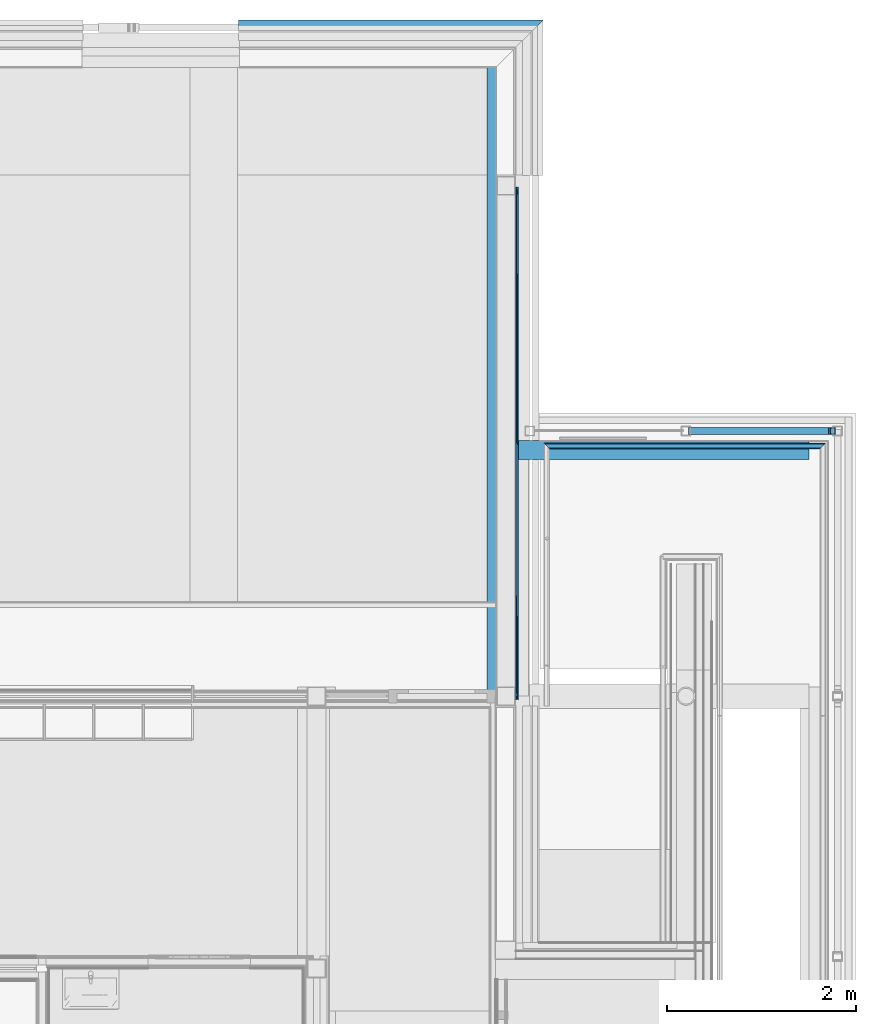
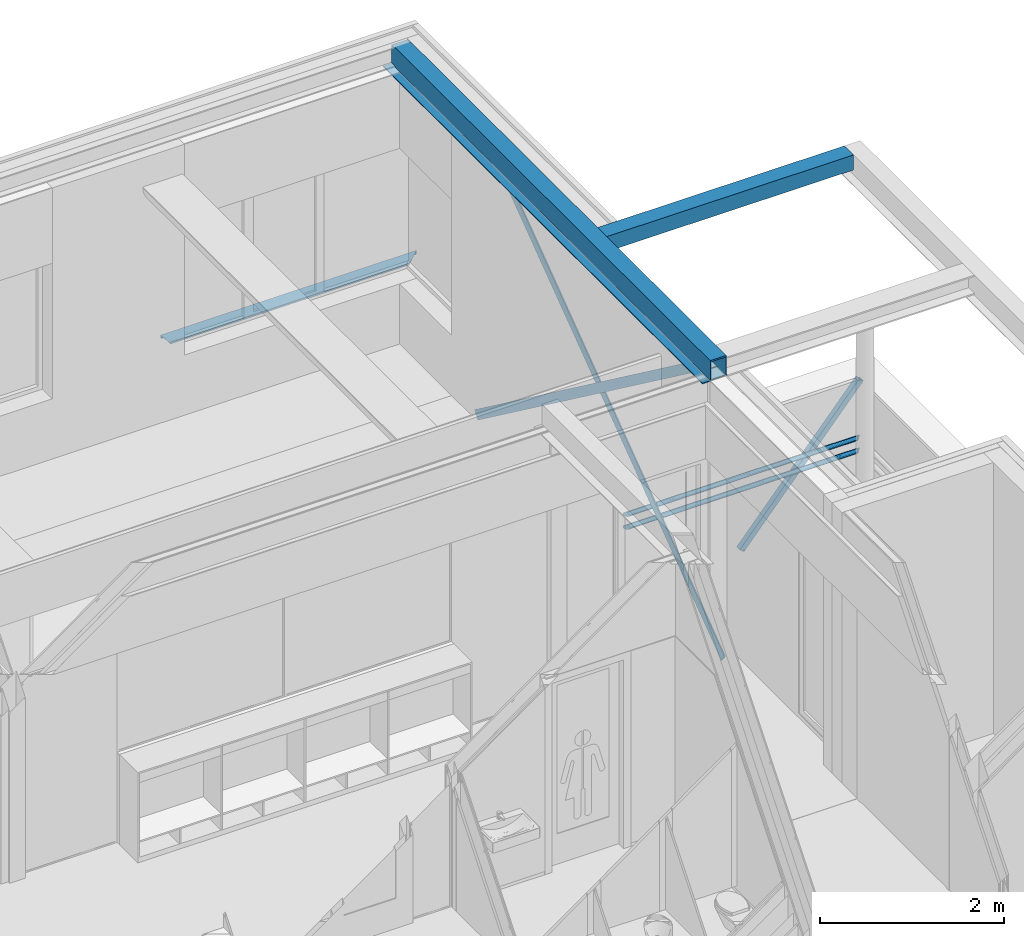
# One storey, part 27 of 137: 6 beams, 2 members, 1 element without a shape of its own.
"""IFC2X3 building model written with IfcOpenShell, lengths in millimetres."""

from ifc_helpers import new_model, entity, si_unit, converted_unit, derived_unit, money_unit, direction, frame, origin_with_axes, place, context, subcontext, project, spatial, faceted_brep, material, type_object, element, aggregate, save


model = new_model("IFC2X3")

# Units and contexts
model_context = context("Model", 3, precision=0.01, world=origin_with_axes(), true_north=direction((0.0, 1.0)))
body_context = subcontext(model_context, "Body", "Model", "MODEL_VIEW")
ifc_project = project(units=[si_unit("LENGTHUNIT", "METRE", prefix="MILLI"), si_unit("AREAUNIT", "SQUARE_METRE"), si_unit("VOLUMEUNIT", "CUBIC_METRE"), converted_unit("PLANEANGLEUNIT", "DEGREE", entity("IfcPlaneAngleMeasure", 0.0174532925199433), si_unit("PLANEANGLEUNIT", "RADIAN"), dimensions=[0, 0, 0, 0, 0, 0, 0]), money_unit("EUR"), converted_unit("TIMEUNIT", "Year", entity("IfcTimeMeasure", 31556926.0), si_unit("TIMEUNIT", "SECOND"), dimensions=[0, 0, 1, 0, 0, 0, 0]), si_unit("MASSUNIT", "GRAM", prefix="KILO"), si_unit("THERMODYNAMICTEMPERATUREUNIT", "DEGREE_CELSIUS"), si_unit("LUMINOUSINTENSITYUNIT", "LUMEN"), si_unit("ENERGYUNIT", "JOULE", prefix="MEGA"), derived_unit("THERMALCONDUCTANCEUNIT", [(si_unit("POWERUNIT", "WATT"), 1), (si_unit("LENGTHUNIT", "METRE"), -1), (si_unit("THERMODYNAMICTEMPERATUREUNIT", "KELVIN"), -1)]), derived_unit("SPECIFICHEATCAPACITYUNIT", [(si_unit("ENERGYUNIT", "JOULE"), 1), (si_unit("MASSUNIT", "GRAM", prefix="KILO"), -1), (si_unit("THERMODYNAMICTEMPERATUREUNIT", "KELVIN"), -1)]), derived_unit("MASSDENSITYUNIT", [(si_unit("MASSUNIT", "GRAM", prefix="KILO"), 1), (si_unit("VOLUMEUNIT", "CUBIC_METRE"), -1)])], contexts=[model_context])

# Site, building, storey
site_placement = place(None, origin_with_axes())
site = spatial("IfcSite", under=ifc_project, at=site_placement, Name="Site", CompositionType="ELEMENT")
building_placement = place(site_placement, origin_with_axes())
building = spatial("IfcBuilding", under=site, at=building_placement, Name="Naam gebouw", CompositionType="ELEMENT")
storey_placement = place(building_placement, frame((0.0, 0.0, 3960.0), z_axis=(0.0, 0.0, 1.0), x_axis=(1.0, 0.0, 0.0)))
storey = spatial("IfcBuildingStorey", under=building, at=storey_placement, Name="1e verdieping", CompositionType="ELEMENT", Elevation=3960.0)

# Beams
ifc_material_1 = material(Name="Metaal - Staal C")
beam_type_1 = type_object("IfcBeamType", Name="28 THQ enkele flens 01 315 x 277", PredefinedType="BEAM")
beam_1_placement = place(storey_placement, frame((26500.0, 22224.99984707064, 3860.0), z_axis=(0.0, 0.0, 1.0), x_axis=(1.0, 0.0, 0.0)))
element("IfcBeam", 1, at=beam_1_placement, inside=storey, type_object=beam_type_1, material=ifc_material_1, Name="h METAAL_Regenwaterafvoer-x", ObjectType="BEAM", context=body_context, shape_type="Brep", body=[
    faceted_brep([(89.99999999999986, 10.00000000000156, -277.0000000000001), (-89.99999999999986, 10.00000000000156, -277.0000000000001), (-89.99999999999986, 190.0000000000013, -277.0000000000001), (89.99999999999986, 190.0000000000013, -277.0000000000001), (89.99999999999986, 10.00000000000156, -264.9999999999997), (-89.99999999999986, 10.00000000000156, -264.9999999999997), (-89.99999999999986, 190.0000000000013, -264.9999999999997), (89.99999999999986, 190.0000000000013, -264.9999999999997)], [[[0, 1, 2, 3]], [[0, 4, 5, 1]], [[1, 5, 6, 2]], [[2, 6, 7, 3]], [[3, 7, 4, 0]], [[6, 5, 4, 7]]]),
    faceted_brep([(90.00000195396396, 5400.000152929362, -277.0000000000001), (-89.99999804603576, 5400.000152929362, -277.0000000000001), (-89.99999804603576, 5580.000152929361, -277.0000000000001), (90.00000195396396, 5580.000152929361, -277.0000000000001), (90.00000195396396, 5400.000152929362, -264.9999999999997), (-89.99999804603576, 5400.000152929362, -264.9999999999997), (-89.99999804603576, 5580.000152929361, -264.9999999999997), (90.00000195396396, 5580.000152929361, -264.9999999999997)], [[[0, 1, 2, 3]], [[0, 4, 5, 1]], [[1, 5, 6, 2]], [[2, 6, 7, 3]], [[3, 7, 4, 0]], [[6, 5, 4, 7]]]),
    faceted_brep([(94.99999999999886, 5590.000152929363, -260.0000000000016), (94.99999999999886, 5390.00015292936, -260.0000000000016), (94.99999999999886, 5390.00015292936, -264.9999999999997), (94.99999999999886, 200.0000000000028, -264.9999999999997), (94.99999999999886, 200.0000000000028, -260.0000000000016), (94.99999999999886, 0.0, -260.0000000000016), (94.99999999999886, 0.0, -20.00000000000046), (94.99999999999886, 6940.000152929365, -20.00000000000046), (94.99999999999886, 6940.000152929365, -246.0000000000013), (94.99999999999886, 6860.000152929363, -246.0000000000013), (94.99999999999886, 6860.000152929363, -260.0000000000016), (94.99999999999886, 6950.000152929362, -260.0000000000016), (94.99999999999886, 6950.000152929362, -264.9999999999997), (94.99999999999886, 5590.000152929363, -264.9999999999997), (100.0000019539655, 5390.00015292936, -260.0000000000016), (100.0000019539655, 5590.000152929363, -260.0000000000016), (100.0000019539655, 5390.00015292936, -277.0000000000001), (-99.99999804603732, 5390.00015292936, -277.0000000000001), (-99.99999804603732, 5390.00015292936, -260.0000000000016), (-94.99999999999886, 5390.00015292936, -260.0000000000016), (-94.99999999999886, 5390.00015292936, -264.9999999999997), (-94.99999999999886, 200.0000000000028, -264.9999999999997), (-100.0000000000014, 200.0000000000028, -277.0000000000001), (100.0000000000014, 200.0000000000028, -277.0000000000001), (100.0000000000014, 200.0000000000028, -260.0000000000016), (-94.99999999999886, 200.0000000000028, -260.0000000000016), (-100.0000000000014, 200.0000000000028, -260.0000000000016), (100.0000000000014, 174.5742838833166, -260.0000000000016), (100.0000000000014, 0.0, -260.0000000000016), (100.0000000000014, 0.0, -277.0000000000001), (115.9999999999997, 0.0, -277.0000000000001), (115.9999999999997, 0.0, -264.9999999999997), (100.9999999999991, 0.0, -264.9999999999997), (100.9999999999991, 0.0, 0.0), (-100.9999999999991, 0.0, 0.0), (-100.9999999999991, 0.0, -264.9999999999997), (-199.0000044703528, 0.0, -264.9999999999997), (-199.0000044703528, 0.0, -277.0000000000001), (-100.0000000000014, 0.0, -277.0000000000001), (-100.0000000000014, 0.0, -260.0000000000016), (-94.99999999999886, 0.0, -260.0000000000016), (-94.99999999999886, 0.0, -19.99999999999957), (-94.99999999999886, 6940.000152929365, -19.99999999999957), (100.000000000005, 6940.000152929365, -14.00000000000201), (100.000000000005, 6940.000152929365, -246.0000000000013), (-94.99999999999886, 6940.000152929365, -246.0000000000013), (-100.9999999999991, 6940.000152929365, -246.0000000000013), (-100.9999999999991, 6940.000152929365, -14.00000000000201), (100.000000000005, 6860.000152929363, -246.0000000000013), (100.000000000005, 6860.000152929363, -260.0000000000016), (100.000000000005, 6950.000152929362, -260.0000000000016), (-94.99999999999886, 6950.000152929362, -264.9999999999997), (100.000000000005, 6950.000152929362, 0.0), (100.9999999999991, 6950.000152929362, 0.0), (100.9999999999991, 6950.000152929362, -264.9999999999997), (115.9999999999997, 6950.000152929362, -264.9999999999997), (115.9999999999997, 6950.000152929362, -277.0000000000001), (-199.0000044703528, 6950.000152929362, -277.0000000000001), (-199.0000044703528, 6950.000152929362, -264.9999999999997), (-100.9999999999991, 6950.000152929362, -264.9999999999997), (-101.0000000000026, 6950.000152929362, -260.0000000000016), (-94.99999999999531, 6950.000152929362, -260.0000000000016), (-94.99999999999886, 5590.000152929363, -264.9999999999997), (-99.99999804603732, 5590.000152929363, -260.0000000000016), (-99.99999804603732, 5590.000152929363, -277.0000000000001), (100.0000019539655, 5590.000152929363, -277.0000000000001), (-94.99999999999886, 5590.000152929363, -260.0000000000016), (100.0000000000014, 197.4985269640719, -277.0000000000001), (115.000000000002, 197.4985269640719, -277.0000000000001), (115.000000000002, 398.9560298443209, -277.0000000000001), (100.0000000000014, 398.9560298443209, -277.0000000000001), (115.9999999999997, 5342.50162596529, -277.0000000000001), (115.000000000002, 5342.50162596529, -277.0000000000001), (115.000000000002, 5141.044123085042, -277.0000000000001), (115.9999999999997, 5141.044123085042, -277.0000000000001), (-94.99999999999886, 6860.000152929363, -260.0000000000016), (-94.99999999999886, 6860.000152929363, -246.0000000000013), (100.0000000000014, 135.7395475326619, -81.8057602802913), (100.0000000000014, 64.26045246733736, -178.1942397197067), (115.9999999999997, 5157.225941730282, -264.9999999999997), (115.9999999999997, 5358.68344461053, -264.9999999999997), (100.9999999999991, 382.7742111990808, -264.9999999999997), (115.000000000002, 382.7742111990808, -264.9999999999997), (115.000000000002, 181.3167083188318, -264.9999999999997), (100.9999999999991, 181.3167083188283, -264.9999999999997), (115.000000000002, 5157.225941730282, -264.9999999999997), (115.000000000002, 5358.68344461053, -264.9999999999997), (100.9999999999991, 64.26045246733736, -178.1942397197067), (100.9999999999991, 135.7395475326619, -81.8057602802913), (100.000000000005, 6860.000152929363, 0.0), (-101.0000000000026, 6860.000152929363, 0.0), (-100.9999999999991, 6860.000152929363, -246.0000000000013), (-100.9999999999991, 6860.000152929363, -260.0000000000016), (-100.9999999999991, 6860.000152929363, -14.00000000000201), (100.000000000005, 6860.000152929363, -14.00000000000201)], [[[0, 1, 2, 3, 4, 5, 6, 7, 8, 9, 10, 11, 12, 13]], [[14, 1, 0, 15]], [[14, 16, 17, 18, 19, 20, 2, 1]], [[3, 2, 20, 21]], [[22, 23, 24, 4, 3, 21, 25, 26]], [[4, 24, 27, 28, 5]], [[5, 28, 29, 30, 31, 32, 33, 34, 35, 36, 37, 38, 39, 40, 41, 6]], [[6, 41, 42, 7]], [[43, 44, 8, 7, 42, 45, 46, 47]], [[44, 48, 9, 8]], [[48, 49, 10, 9]], [[10, 49, 50, 11]], [[51, 12, 11, 50, 52, 53, 54, 55, 56, 57, 58, 59, 60, 61]], [[51, 62, 13, 12]], [[63, 64, 65, 15, 0, 13, 62, 66]], [[15, 65, 16, 14]], [[30, 29, 67, 68, 69, 70, 23, 22, 38, 37, 57, 56, 71, 72, 73, 74], [64, 17, 16, 65]], [[18, 17, 64, 63]], [[63, 66, 19, 18]], [[19, 66, 62, 51, 61, 75, 76, 45, 42, 41, 40, 25, 21, 20]], [[27, 24, 23, 70, 77, 78]], [[26, 25, 40, 39]], [[39, 38, 22, 26]], [[28, 27, 67, 29]], [[31, 30, 74, 79]], [[80, 55, 54, 81, 82, 83, 84, 32, 31, 79, 85, 86]], [[53, 33, 32, 84, 87, 88, 81, 54]], [[53, 52, 89, 90, 34, 33]], [[46, 91, 92, 60, 59, 35, 34, 90, 93, 47]], [[59, 58, 36, 35]], [[58, 57, 37, 36]], [[43, 94, 89, 52, 50, 49, 48, 44]], [[91, 46, 45, 76]], [[94, 43, 47, 93]], [[56, 55, 80, 71]], [[60, 92, 75, 61]], [[68, 67, 27, 78, 87, 84, 83]], [[82, 69, 68, 83]], [[69, 82, 81, 88, 77, 70]], [[86, 72, 71, 80]], [[73, 72, 86, 85]], [[74, 73, 85, 79]], [[92, 91, 76, 75]], [[77, 88, 87, 78]], [[94, 93, 90, 89]]]),
])
beam_type_2 = type_object("IfcBeamType", Name="200X200X10 200 x 200", PredefinedType="BEAM")
beam_2_placement = place(storey_placement, frame((29698.99999955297, 24924.97621406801, 3760.0), z_axis=(0.0, 0.0, 1.0), x_axis=(0.0, 1.0, 0.0)))
element("IfcBeam", 2, at=beam_2_placement, inside=storey, type_object=beam_type_2, material=ifc_material_1, Name="h METAAL_Regenwaterafvoer-x", ObjectType="BEAM", context=body_context, shape_type="Brep", body=[
    faceted_brep([(-100.0000000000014, 3097.999999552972, -99.99999999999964), (100.0000000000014, 3097.999999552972, -99.99999999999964), (100.0000000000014, 0.0, -99.99999999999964), (-100.0000000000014, 0.0, -99.99999999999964), (-100.0000000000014, 3097.999999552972, 99.99999999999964), (100.0000000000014, 3097.999999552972, 99.99999999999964), (-89.99999999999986, 3097.999999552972, -89.99999999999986), (89.99999999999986, 3097.999999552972, -89.99999999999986), (89.99999999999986, 3097.999999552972, 89.99999999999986), (-89.99999999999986, 3097.999999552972, 89.99999999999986), (100.0000000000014, 0.0, 99.99999999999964), (-100.0000000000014, 0.0, 99.99999999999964), (-89.99999999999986, 0.0, -89.99999999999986), (-89.99999999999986, 0.0, 89.99999999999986), (89.99999999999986, 0.0, 89.99999999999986), (89.99999999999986, 0.0, -89.99999999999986)], [[[0, 1, 2, 3]], [[0, 4, 5, 1], [6, 7, 8, 9]], [[1, 5, 10, 2]], [[3, 2, 10, 11], [12, 13, 14, 15]], [[4, 0, 3, 11]], [[5, 4, 11, 10]], [[7, 6, 12, 15]], [[8, 7, 15, 14]], [[9, 8, 14, 13]], [[6, 9, 13, 12]]]),
])
beam_type_3 = type_object("IfcBeamType", Name="Metaal - Staal C 15 x 120", PredefinedType="BEAM")
beam_3_placement = place(storey_placement, frame((26630.00000000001, 22324.99984707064, -230.0), z_axis=(0.0, 0.0, 1.0), x_axis=(1.0, 0.0, 0.0)))
element("IfcBeam", 3, at=beam_3_placement, inside=storey, type_object=beam_type_3, material=ifc_material_1, Name="h METAAL_Regenwaterafvoer-x", ObjectType="BEAM", context=body_context, shape_type="Brep", body=[
    faceted_brep([(0.0, -35.73954753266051, 48.19423971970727), (0.0, 5304.260605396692, 4008.194239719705), (-15.00000000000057, 5304.260605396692, 4008.194239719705), (-15.00000000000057, -35.73954753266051, 48.19423971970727), (0.0, 35.73954753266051, -48.19423971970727), (0.0, 5375.739700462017, 3911.805760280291), (-15.00000000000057, 5375.739700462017, 3911.805760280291), (-15.00000000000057, 35.73954753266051, -48.19423971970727)], [[[0, 1, 2, 3]], [[4, 5, 1, 0]], [[2, 1, 5, 6]], [[3, 2, 6, 7]], [[4, 0, 3, 7]], [[7, 6, 5, 4]]]),
])
beam_4_placement = place(storey_placement, frame((26600.0, 27665.0, -230.0), z_axis=(0.0, 0.0, 1.0), x_axis=(-1.0, 0.0, 0.0)))
element("IfcBeam", 4, at=beam_4_placement, inside=storey, type_object=beam_type_3, material=ifc_material_1, Name="h METAAL_Regenwaterafvoer-x", ObjectType="BEAM", context=body_context, shape_type="Brep", body=[
    faceted_brep([(0.0, -35.73954753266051, 48.19423971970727), (0.0, 5304.260605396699, 4008.194239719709), (-15.00000000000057, 5304.260605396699, 4008.194239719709), (-15.00000000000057, -35.73954753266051, 48.19423971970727), (0.0, 35.73954753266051, -48.19423971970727), (0.0, 5375.739700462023, 3911.805760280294), (-15.00000000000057, 5375.739700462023, 3911.805760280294), (-15.00000000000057, 35.73954753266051, -48.19423971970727)], [[[0, 1, 2, 3]], [[4, 5, 1, 0]], [[2, 1, 5, 6]], [[3, 2, 6, 7]], [[4, 0, 3, 7]], [[7, 6, 5, 4]]]),
])
ifc_material_2 = material(Name="Metaal - Aluminium")
beam_type_4 = type_object("IfcBeamType", Name="41 Waterslag 218 x 75", PredefinedType="BEAM")
beam_5_placement = place(storey_placement, frame((23674.99942456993, 29425.0, 750.0), z_axis=(0.0, 0.0, 1.0), x_axis=(0.0, -1.0, 0.0)))
element("IfcBeam", 5, at=beam_5_placement, inside=storey, type_object=beam_type_4, material=ifc_material_2, Name="h4 Aluminium, aluminiumlegeringen_Regenwaterafvoer-x", ObjectType="BEAM", context=body_context, shape_type="Brep", body=[
    faceted_brep([(178.0000000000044, 0.0, 49.99999999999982), (178.0000000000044, 2997.000575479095, 49.99999999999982), (175.0000000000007, 3000.000575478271, 49.99999999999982), (175.0000000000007, 0.0, 49.99999999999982), (177.9999999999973, 0.0, 27.27462510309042), (177.9999999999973, 2997.000575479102, 27.27462510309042), (-36.99999999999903, 3212.000575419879, 12.08231741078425), (-36.99999999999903, 3212.000575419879, -21.99999999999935), (-21.99999999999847, 3197.00057542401, -21.99999999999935), (-21.99999999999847, 3197.00057542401, -24.99999999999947), (-39.99999999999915, 3215.000575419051, -24.99999999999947), (-39.99999999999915, 3215.000575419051, 15.00000000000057), (175.0000000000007, 3000.000575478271, 30.00000000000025), (175.0000000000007, 0.0, 30.00000000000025), (-39.99999999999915, 0.0, 15.00000000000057), (-39.99999999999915, 0.0, -24.99999999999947), (-21.99999999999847, 0.0, -24.99999999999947), (-21.99999999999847, 0.0, -21.99999999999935), (-36.99999999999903, 0.0, -21.99999999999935), (-36.99999999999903, 0.0, 12.08231741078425)], [[[0, 1, 2, 3]], [[4, 5, 1, 0]], [[2, 1, 5, 6, 7, 8, 9, 10, 11, 12]], [[3, 2, 12, 13]], [[4, 0, 3, 13, 14, 15, 16, 17, 18, 19]], [[19, 6, 5, 4]], [[18, 7, 6, 19]], [[17, 8, 7, 18]], [[16, 9, 8, 17]], [[15, 10, 9, 16]], [[14, 11, 10, 15]], [[13, 12, 11, 14]]]),
])

# Railing, members
railing_type = type_object("IfcRailingType", Name="Railing Type", PredefinedType="NOTDEFINED")
railing_placement = place(storey_placement, frame((29909.99996519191, 18712.73639114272, -3419.999937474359), z_axis=(0.0, 0.0, 1.0), x_axis=(1.0, 0.0, 0.0)))
railing = element("IfcRailing", 6, at=railing_placement, inside=storey, type_object=railing_type, Name="34_Reling-x", PredefinedType="NOTDEFINED")
ifc_material_3 = material(Name="Metaal - RVS")
member_type = type_object("IfcMemberType", Name="IfcMember", PredefinedType="USERDEFINED")
member_1_placement = place(railing_placement, frame((-1523.999965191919, 6254.239828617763, 3352.917960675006), z_axis=(0.0, 0.0, 1.0), x_axis=(1.0, 0.0, 0.0)))
member_1 = element("IfcMember", 7, at=member_1_placement, type_object=member_type, material=ifc_material_3, Name="h3 Staal legeringen_", context=body_context, shape_type="Brep", body=[
    faceted_brep([(1425.999999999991, -30.00000000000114, 37.08203932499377), (1426.455767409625, -29.54423259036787, 42.29148465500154), (-1426.455767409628, -29.54423259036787, 42.29148465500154), (-1425.999999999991, -30.00000000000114, 37.08203932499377), (1426.455767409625, -29.54423259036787, 31.87259399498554), (1427.809221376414, -28.19077862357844, 26.82143502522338), (1430.019237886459, -25.98076211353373, 22.08203932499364), (1433.018666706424, -22.98133329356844, 17.79841103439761), (1436.716371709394, -19.28362829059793, 14.10070603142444), (1440.999999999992, -15.00000000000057, 11.10127721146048), (1445.739395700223, -10.26060429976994, 8.891260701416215), (1450.790554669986, -5.209445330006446, 7.537806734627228), (1455.999999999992, 0.0, 7.082039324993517), (1461.209445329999, 5.209445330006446, 7.537806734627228), (1466.260604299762, 10.26060429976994, 8.891260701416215), (1470.999999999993, 15.00000000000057, 11.10127721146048), (1475.28362829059, 19.28362829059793, 14.10070603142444), (1478.981333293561, 22.98133329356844, 17.79841103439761), (1481.980762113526, 25.98076211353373, 22.08203932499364), (1484.190778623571, 28.19077862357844, 26.82143502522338), (1485.54423259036, 29.54423259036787, 31.87259399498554), (1485.999999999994, 30.00000000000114, 37.08203932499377), (1485.54423259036, 29.54423259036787, 42.29148465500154), (1484.190778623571, 28.19077862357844, 47.3426436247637), (1481.980762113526, 25.98076211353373, 52.08203932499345), (1478.981333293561, 22.98133329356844, 56.36566761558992), (1475.28362829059, 19.28362829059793, 60.06337261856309), (1470.999999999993, 15.00000000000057, 63.06280143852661), (1466.260604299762, 10.26060429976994, 65.27281794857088), (1461.209445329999, 5.209445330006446, 66.62627191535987), (1455.999999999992, 0.0, 67.08203932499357), (1450.790554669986, -5.209445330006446, 66.62627191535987), (1445.739395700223, -10.26060429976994, 65.27281794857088), (1440.999999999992, -15.00000000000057, 63.06280143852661), (1436.716371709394, -19.28362829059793, 60.06337261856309), (1433.018666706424, -22.98133329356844, 56.36566761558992), (1430.019237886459, -25.98076211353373, 52.08203932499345), (1427.809221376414, -28.19077862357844, 47.3426436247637), (-1427.809221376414, -28.19077862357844, 47.3426436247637), (-1430.019237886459, -25.98076211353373, 52.08203932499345), (-1433.018666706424, -22.98133329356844, 56.36566761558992), (-1436.716371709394, -19.28362829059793, 60.06337261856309), (-1440.999999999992, -15.00000000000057, 63.06280143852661), (-1445.739395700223, -10.26060429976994, 65.27281794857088), (-1450.790554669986, -5.209445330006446, 66.62627191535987), (-1455.999999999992, 0.0, 67.08203932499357), (-1461.209445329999, 5.209445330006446, 66.62627191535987), (-1466.260604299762, 10.26060429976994, 65.27281794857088), (-1470.999999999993, 15.00000000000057, 63.06280143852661), (-1475.28362829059, 19.28362829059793, 60.06337261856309), (-1478.981333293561, 22.98133329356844, 56.36566761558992), (-1481.980762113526, 25.98076211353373, 52.08203932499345), (-1484.190778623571, 28.19077862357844, 47.3426436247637), (-1485.544232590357, 29.54423259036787, 42.29148465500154), (-1485.999999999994, 30.00000000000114, 37.08203932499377), (-1485.544232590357, 29.54423259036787, 31.87259399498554), (-1484.190778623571, 28.19077862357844, 26.82143502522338), (-1481.980762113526, 25.98076211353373, 22.08203932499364), (-1478.981333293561, 22.98133329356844, 17.79841103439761), (-1475.28362829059, 19.28362829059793, 14.10070603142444), (-1470.999999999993, 15.00000000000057, 11.10127721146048), (-1466.260604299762, 10.26060429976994, 8.891260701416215), (-1461.209445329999, 5.209445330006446, 7.537806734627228), (-1455.999999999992, 0.0, 7.082039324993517), (-1450.790554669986, -5.209445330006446, 7.537806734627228), (-1445.739395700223, -10.26060429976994, 8.891260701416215), (-1440.999999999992, -15.00000000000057, 11.10127721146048), (-1436.716371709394, -19.28362829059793, 14.10070603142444), (-1433.018666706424, -22.98133329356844, 17.79841103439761), (-1430.019237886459, -25.98076211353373, 22.08203932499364), (-1427.809221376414, -28.19077862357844, 26.82143502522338), (-1426.455767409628, -29.54423259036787, 31.87259399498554)], [[[0, 1, 2, 3]], [[0, 4, 5, 6, 7, 8, 9, 10, 11, 12, 13, 14, 15, 16, 17, 18, 19, 20, 21, 22, 23, 24, 25, 26, 27, 28, 29, 30, 31, 32, 33, 34, 35, 36, 37, 1]], [[1, 37, 38, 2]], [[3, 2, 38, 39, 40, 41, 42, 43, 44, 45, 46, 47, 48, 49, 50, 51, 52, 53, 54, 55, 56, 57, 58, 59, 60, 61, 62, 63, 64, 65, 66, 67, 68, 69, 70, 71]], [[4, 0, 3, 71]], [[5, 4, 71, 70]], [[6, 5, 70, 69]], [[7, 6, 69, 68]], [[8, 7, 68, 67]], [[9, 8, 67, 66]], [[10, 9, 66, 65]], [[11, 10, 65, 64]], [[12, 11, 64, 63]], [[13, 12, 63, 62]], [[14, 13, 62, 61]], [[15, 14, 61, 60]], [[16, 15, 60, 59]], [[17, 16, 59, 58]], [[18, 17, 58, 57]], [[19, 18, 57, 56]], [[20, 19, 56, 55]], [[21, 20, 55, 54]], [[22, 21, 54, 53]], [[23, 22, 53, 52]], [[24, 23, 52, 51]], [[25, 24, 51, 50]], [[26, 25, 50, 49]], [[27, 26, 49, 48]], [[28, 27, 48, 47]], [[29, 28, 47, 46]], [[30, 29, 46, 45]], [[31, 30, 45, 44]], [[32, 31, 44, 43]], [[33, 32, 43, 42]], [[34, 33, 42, 41]], [[35, 34, 41, 40]], [[36, 35, 40, 39]], [[37, 36, 39, 38]]]),
])
member_2_placement = place(railing_placement, frame((-1523.999965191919, 6254.239828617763, 3177.573593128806), z_axis=(0.0, 0.0, 1.0), x_axis=(1.0, 0.0, 0.0)))
member_2 = element("IfcMember", 8, at=member_2_placement, type_object=member_type, material=ifc_material_3, Name="h3 Staal legeringen_Regel-x", context=body_context, shape_type="Brep", body=[
    faceted_brep([(1425.999999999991, -30.00000000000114, 42.42640687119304), (1426.455767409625, -29.54423259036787, 47.63585220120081), (-1426.455767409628, -29.54423259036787, 47.63585220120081), (-1425.999999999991, -30.00000000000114, 42.42640687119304), (1426.455767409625, -29.54423259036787, 37.21696154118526), (1427.809221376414, -28.19077862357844, 32.1658025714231), (1430.019237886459, -25.98076211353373, 27.42640687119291), (1433.018666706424, -22.98133329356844, 23.14277858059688), (1436.716371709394, -19.28362829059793, 19.44507357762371), (1440.999999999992, -15.00000000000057, 16.44564475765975), (1445.739395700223, -10.26060429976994, 14.23562824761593), (1450.790554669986, -5.209445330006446, 12.88217428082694), (1455.999999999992, 0.0, 12.42640687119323), (1461.209445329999, 5.209445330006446, 12.88217428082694), (1466.260604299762, 10.26060429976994, 14.23562824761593), (1470.999999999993, 15.00000000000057, 16.44564475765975), (1475.28362829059, 19.28362829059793, 19.44507357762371), (1478.981333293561, 22.98133329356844, 23.14277858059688), (1481.980762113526, 25.98076211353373, 27.42640687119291), (1484.190778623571, 28.19077862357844, 32.1658025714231), (1485.54423259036, 29.54423259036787, 37.21696154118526), (1485.999999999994, 30.00000000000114, 42.42640687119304), (1485.54423259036, 29.54423259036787, 47.63585220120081), (1484.190778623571, 28.19077862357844, 52.68701117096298), (1481.980762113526, 25.98076211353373, 57.42640687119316), (1478.981333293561, 22.98133329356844, 61.71003516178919), (1475.28362829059, 19.28362829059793, 65.40774016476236), (1470.999999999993, 15.00000000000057, 68.40716898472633), (1466.260604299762, 10.26060429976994, 70.61718549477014), (1461.209445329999, 5.209445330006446, 71.97063946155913), (1455.999999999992, 0.0, 72.42640687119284), (1450.790554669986, -5.209445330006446, 71.97063946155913), (1445.739395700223, -10.26060429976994, 70.61718549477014), (1440.999999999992, -15.00000000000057, 68.40716898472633), (1436.716371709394, -19.28362829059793, 65.40774016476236), (1433.018666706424, -22.98133329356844, 61.71003516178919), (1430.019237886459, -25.98076211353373, 57.42640687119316), (1427.809221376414, -28.19077862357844, 52.68701117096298), (-1427.809221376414, -28.19077862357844, 52.68701117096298), (-1430.019237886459, -25.98076211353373, 57.42640687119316), (-1433.018666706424, -22.98133329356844, 61.71003516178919), (-1436.716371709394, -19.28362829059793, 65.40774016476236), (-1440.999999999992, -15.00000000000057, 68.40716898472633), (-1445.739395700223, -10.26060429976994, 70.61718549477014), (-1450.790554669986, -5.209445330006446, 71.97063946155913), (-1455.999999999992, 0.0, 72.42640687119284), (-1461.209445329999, 5.209445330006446, 71.97063946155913), (-1466.260604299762, 10.26060429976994, 70.61718549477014), (-1470.999999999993, 15.00000000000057, 68.40716898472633), (-1475.28362829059, 19.28362829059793, 65.40774016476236), (-1478.981333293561, 22.98133329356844, 61.71003516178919), (-1481.980762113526, 25.98076211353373, 57.42640687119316), (-1484.190778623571, 28.19077862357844, 52.68701117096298), (-1485.544232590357, 29.54423259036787, 47.63585220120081), (-1485.999999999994, 30.00000000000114, 42.42640687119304), (-1485.544232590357, 29.54423259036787, 37.21696154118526), (-1484.190778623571, 28.19077862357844, 32.1658025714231), (-1481.980762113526, 25.98076211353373, 27.42640687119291), (-1478.981333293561, 22.98133329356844, 23.14277858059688), (-1475.28362829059, 19.28362829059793, 19.44507357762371), (-1470.999999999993, 15.00000000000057, 16.44564475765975), (-1466.260604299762, 10.26060429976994, 14.23562824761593), (-1461.209445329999, 5.209445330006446, 12.88217428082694), (-1455.999999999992, 0.0, 12.42640687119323), (-1450.790554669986, -5.209445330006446, 12.88217428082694), (-1445.739395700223, -10.26060429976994, 14.23562824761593), (-1440.999999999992, -15.00000000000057, 16.44564475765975), (-1436.716371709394, -19.28362829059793, 19.44507357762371), (-1433.018666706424, -22.98133329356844, 23.14277858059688), (-1430.019237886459, -25.98076211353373, 27.42640687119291), (-1427.809221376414, -28.19077862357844, 32.1658025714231), (-1426.455767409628, -29.54423259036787, 37.21696154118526)], [[[0, 1, 2, 3]], [[0, 4, 5, 6, 7, 8, 9, 10, 11, 12, 13, 14, 15, 16, 17, 18, 19, 20, 21, 22, 23, 24, 25, 26, 27, 28, 29, 30, 31, 32, 33, 34, 35, 36, 37, 1]], [[1, 37, 38, 2]], [[3, 2, 38, 39, 40, 41, 42, 43, 44, 45, 46, 47, 48, 49, 50, 51, 52, 53, 54, 55, 56, 57, 58, 59, 60, 61, 62, 63, 64, 65, 66, 67, 68, 69, 70, 71]], [[4, 0, 3, 71]], [[5, 4, 71, 70]], [[6, 5, 70, 69]], [[7, 6, 69, 68]], [[8, 7, 68, 67]], [[9, 8, 67, 66]], [[10, 9, 66, 65]], [[11, 10, 65, 64]], [[12, 11, 64, 63]], [[13, 12, 63, 62]], [[14, 13, 62, 61]], [[15, 14, 61, 60]], [[16, 15, 60, 59]], [[17, 16, 59, 58]], [[18, 17, 58, 57]], [[19, 18, 57, 56]], [[20, 19, 56, 55]], [[21, 20, 55, 54]], [[22, 21, 54, 53]], [[23, 22, 53, 52]], [[24, 23, 52, 51]], [[25, 24, 51, 50]], [[26, 25, 50, 49]], [[27, 26, 49, 48]], [[28, 27, 48, 47]], [[29, 28, 47, 46]], [[30, 29, 46, 45]], [[31, 30, 45, 44]], [[32, 31, 44, 43]], [[33, 32, 43, 42]], [[34, 33, 42, 41]], [[35, 34, 41, 40]], [[36, 35, 40, 39]], [[37, 36, 39, 38]]]),
])
aggregate(railing, [member_1, member_2])

# Beam
beam_type_5 = type_object("IfcBeamType", Name="70x70x5 70 x 70", PredefinedType="BEAM")
beam_6_placement = place(storey_placement, frame((28449.99998415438, 25124.97621976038, -1120.00000000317), z_axis=(0.0, 0.0, 1.0), x_axis=(0.0, -1.0, 0.0)))
element("IfcBeam", 9, at=beam_6_placement, inside=storey, type_object=beam_type_5, material=ifc_material_1, Name="h METAAL_Regenwaterafvoer-x", ObjectType="BEAM", context=body_context, shape_type="Brep", body=[
    faceted_brep([(-35.00000000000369, 26.54174462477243, -22.8152535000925), (-35.00000000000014, 5.816651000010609, -4.999986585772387), (-35.00000000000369, 41.85572780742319, -4.999986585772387), (-30.00000000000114, 22.75006682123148, -19.55593157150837), (-30.00000000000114, 5.816651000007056, -4.999986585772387), (34.99999999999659, 26.54174462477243, -22.8152535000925), (35.00000000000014, 5.816651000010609, -4.999986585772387), (29.99999999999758, 5.816651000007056, -4.999986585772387), (29.99999999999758, 22.75006682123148, -19.55593157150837), (34.99999999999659, 41.85572780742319, -4.999986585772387), (-30.00000000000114, 35.26234058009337, -4.999986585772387), (29.99999999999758, 35.26234058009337, -4.999986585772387)], [[[0, 1, 2]], [[3, 4, 1, 0, 5, 6, 7, 8]], [[6, 9, 2, 1, 4, 10, 11, 7]], [[0, 2, 9, 5]], [[3, 10, 4]], [[5, 9, 6]], [[8, 7, 11]], [[8, 11, 10, 3]]]),
    faceted_brep([(34.99999999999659, 1526.541760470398, 1722.184746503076), (35.00000000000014, 46.15372212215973, 1.341422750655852e-05), (-35.00000000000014, 46.15372212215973, 1.341422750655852e-05), (-35.00000000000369, 1526.541760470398, 1722.184746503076), (35.00000000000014, -26.54174462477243, 22.81525350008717), (35.00000000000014, -1.560522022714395e-05, 1.341422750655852e-05), (35.00000000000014, 1500.000015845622, 1745.00000000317), (34.99999999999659, 1453.846305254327, 1745.00000000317), (-30.00000000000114, -1.560522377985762e-05, 1.341422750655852e-05), (-35.00000000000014, -1.560522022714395e-05, 1.341422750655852e-05), (30.00000000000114, -1.560522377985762e-05, 1.341422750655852e-05), (29.99999999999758, 39.56033489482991, 1.341422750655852e-05), (-30.00000000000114, 39.56033489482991, 1.341422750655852e-05), (-35.00000000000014, -26.54174462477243, 22.81525350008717), (-35.00000000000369, 1453.846305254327, 1745.00000000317), (-35.00000000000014, 1500.000015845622, 1745.00000000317), (-30.00000000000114, 1522.750082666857, 1725.44406843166), (29.99999999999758, 1522.750082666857, 1725.44406843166), (29.99999999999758, 1500.000015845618, 1745.00000000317), (-29.99999999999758, 1500.000015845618, 1745.00000000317), (29.99999999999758, -22.75006682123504, 19.55593157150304), (-30.00000000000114, -22.75006682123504, 19.55593157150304), (29.99999999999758, 1460.439692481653, 1745.00000000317), (-30.00000000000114, 1460.439692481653, 1745.00000000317)], [[[0, 1, 2, 3]], [[4, 5, 1, 0, 6, 7]], [[8, 9, 2, 1, 5, 10, 11, 12]], [[3, 2, 9, 13, 14, 15]], [[16, 17, 18, 6, 0, 3, 15, 19]], [[20, 10, 5, 4, 13, 9, 8, 21]], [[22, 23, 19, 15, 14, 7, 6, 18]], [[13, 4, 7, 14]], [[17, 11, 10, 20, 22, 18]], [[16, 12, 11, 17]], [[21, 8, 12, 16, 19, 23]], [[20, 21, 23, 22]]]),
    faceted_brep([(35.00000000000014, 1473.458271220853, 1767.815253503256), (34.99999999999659, 1494.183349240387, 1750.00000000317), (29.99999999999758, 1494.183349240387, 1750.00000000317), (29.99999999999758, 1477.24994902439, 1764.555931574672), (-30.00000000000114, 1477.24994902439, 1764.555931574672), (-30.00000000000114, 1494.183349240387, 1750.00000000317), (-35.00000000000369, 1494.183349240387, 1750.00000000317), (-35.00000000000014, 1473.458271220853, 1767.815253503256), (35.00000000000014, 1458.144299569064, 1750.00000000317), (-35.00000000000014, 1458.144299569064, 1750.00000000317), (-30.00000000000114, 1464.73768679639, 1750.00000000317), (29.99999999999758, 1464.73768679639, 1750.00000000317)], [[[0, 1, 2, 3, 4, 5, 6, 7]], [[0, 8, 1]], [[8, 9, 6, 5, 10, 11, 2, 1]], [[3, 2, 11]], [[3, 11, 10, 4]], [[4, 10, 5]], [[7, 6, 9]], [[7, 9, 8, 0]]]),
])

save(model, "model.ifc")
